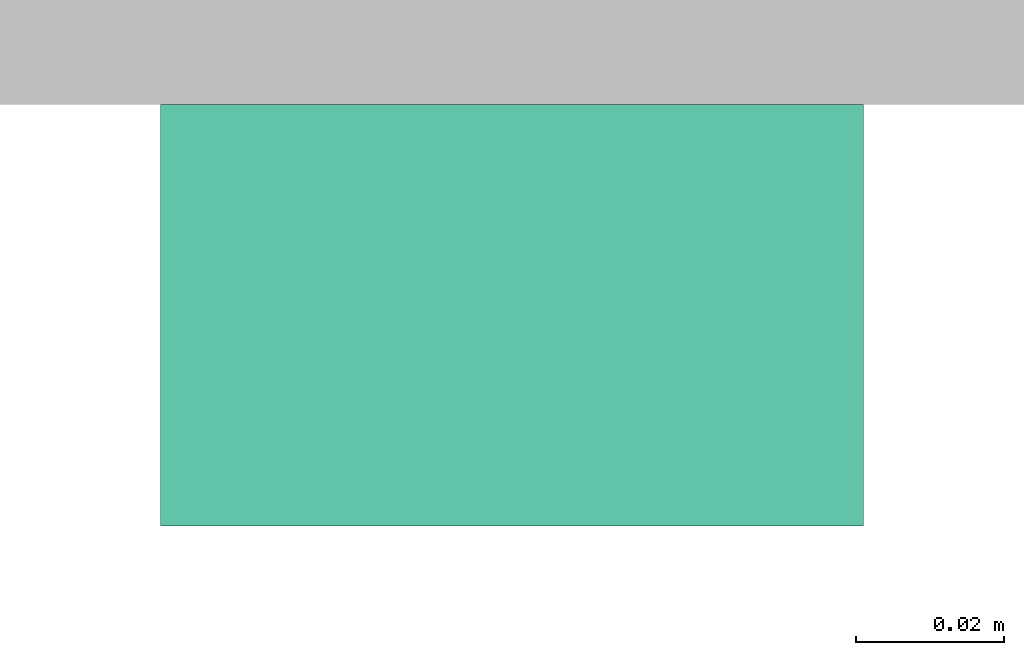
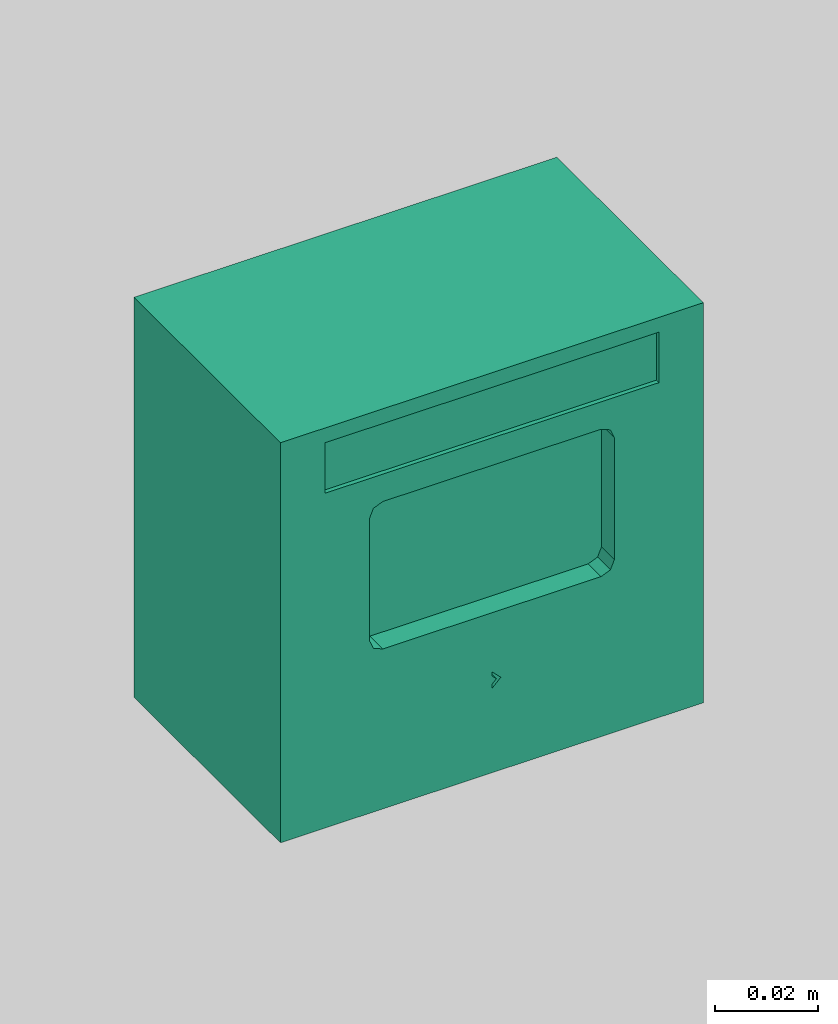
# One storey, part 29 of 197: 1 distribution control element.
"""IFC2X3 building model written with IfcOpenShell, lengths in metres."""

from ifc_helpers import new_model, entity, si_unit, converted_unit, direction, frame, origin, place, context, subcontext, project, spatial, faceted_brep, source, transform, mapped, material, material_list, type_object, type_shapes, element, save


model = new_model("IFC2X3")

# Units and contexts
model_context = context("Model", 3, precision=1e-05, world=origin(), true_north=direction((6.123031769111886e-17, 1.0)))
body_context = subcontext(model_context, "Body", "Model", "MODEL_VIEW")
ifc_project = project(units=[si_unit("LENGTHUNIT", "METRE"), converted_unit("PLANEANGLEUNIT", "DEGREE", entity("IfcPlaneAngleMeasure", 0.017453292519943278), si_unit("PLANEANGLEUNIT", "RADIAN"), dimensions=[0, 0, 0, 0, 0, 0, 0]), si_unit("AREAUNIT", "SQUARE_METRE")], contexts=[model_context])

# Site, building, storey
site_placement = place(None, origin())
site = spatial("IfcSite", under=ifc_project, at=site_placement, Name="Default", CompositionType="ELEMENT")
building_placement = place(site_placement, origin())
building = spatial("IfcBuilding", under=site, at=building_placement, CompositionType="ELEMENT")
storey_placement = place(building_placement, origin())
storey = spatial("IfcBuildingStorey", under=building, at=storey_placement, Name="Niveau 0", CompositionType="ELEMENT", Elevation=0.0)

# Distribution control element
ifc_material_1 = material(Name="BETCE-INCENDIE-VITRE BLANC")
ifc_material_2 = material(Name="BETCE-INCENDIE-DM ROUGE")
ifc_material_list = material_list([ifc_material_1, ifc_material_2])
alarm_type = type_object("IfcAlarmType", Name="Déclencheur manuel saillie:DM ROUGE", PredefinedType="NOTDEFINED", material=ifc_material_list)
shared_shape = source(origin(), body_context, "Body", "Brep", [
    faceted_brep([(0.024500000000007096, -0.052000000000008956, 0.03800000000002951), (0.026621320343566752, -0.05200000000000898, 0.038878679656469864), (0.027500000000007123, -0.052000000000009, 0.0410000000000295), (0.027500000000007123, -0.0520000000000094, 0.07000000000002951), (0.026621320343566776, -0.05200000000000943, 0.07212132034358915), (0.024500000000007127, -0.05200000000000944, 0.07300000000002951), (-0.02449999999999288, -0.05200000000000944, 0.07300000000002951), (-0.026621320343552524, -0.05200000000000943, 0.07212132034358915), (-0.027499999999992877, -0.0520000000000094, 0.07000000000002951), (-0.027499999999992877, -0.052000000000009, 0.04100000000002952), (-0.026621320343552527, -0.05200000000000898, 0.03887867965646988), (-0.024499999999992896, -0.052000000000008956, 0.03800000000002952), (0.024500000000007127, -0.05000000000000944, 0.07300000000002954), (0.026621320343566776, -0.050000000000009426, 0.07212132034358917), (0.027500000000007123, -0.05000000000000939, 0.07000000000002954), (0.027500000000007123, -0.050000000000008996, 0.04100000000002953), (0.026621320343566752, -0.050000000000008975, 0.038878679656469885), (0.024500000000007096, -0.050000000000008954, 0.03800000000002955), (-0.024499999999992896, -0.050000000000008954, 0.03800000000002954), (-0.026621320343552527, -0.050000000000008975, 0.038878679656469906), (-0.027499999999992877, -0.050000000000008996, 0.04100000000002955), (-0.027499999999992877, -0.05000000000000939, 0.07000000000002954), (-0.026621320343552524, -0.050000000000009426, 0.07212132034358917), (-0.02449999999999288, -0.05000000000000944, 0.07300000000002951)], [[[0, 1, 2, 3, 4, 5, 6, 7, 8, 9, 10, 11]], [[12, 13, 14, 15, 16, 17, 18, 19, 20, 21, 22, 23]], [[9, 20, 19, 10]], [[19, 18, 11, 10]], [[0, 11, 18, 17]], [[0, 17, 16, 1]], [[16, 15, 2, 1]], [[3, 2, 15, 14]], [[3, 14, 13, 4]], [[13, 12, 5, 4]], [[6, 5, 12, 23]], [[6, 23, 22, 7]], [[22, 21, 8, 7]], [[9, 8, 21, 20]]]),
    faceted_brep([(0.047500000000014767, -0.057000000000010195, 0.09500000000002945), (0.03750000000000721, -0.05700000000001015, 0.09150320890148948), (0.03750000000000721, -0.05700000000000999, 0.07950320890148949), (-0.037499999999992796, -0.05700000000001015, 0.09150320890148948), (0.047500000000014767, -0.057000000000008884, 0.0), (-0.04749999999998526, -0.057000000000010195, 0.09500000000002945), (-0.037499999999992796, -0.05700000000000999, 0.07950320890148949), (-0.047499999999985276, -0.057000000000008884, 0.0), (-0.027499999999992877, -0.05700000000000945, 0.04100000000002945), (-0.026621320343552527, -0.05700000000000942, 0.03887867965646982), (-0.0244999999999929, -0.05700000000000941, 0.03800000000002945), (0.0, -0.057000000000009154, 0.02000000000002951), (0.027500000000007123, -0.05700000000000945, 0.041000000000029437), (0.02662132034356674, -0.05700000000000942, 0.03887867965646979), (0.02450000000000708, -0.05700000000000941, 0.03800000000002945), (0.002000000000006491, -0.05700000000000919, 0.022000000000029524), (0.0, -0.05700000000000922, 0.02400000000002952), (0.0, -0.057000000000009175, 0.021000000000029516), (0.0, -0.057000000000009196, 0.023000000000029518), (0.0010000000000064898, -0.05700000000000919, 0.022000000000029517), (-0.027499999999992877, -0.05700000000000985, 0.07000000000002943), (-0.026621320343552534, -0.05700000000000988, 0.07212132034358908), (-0.02449999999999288, -0.05700000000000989, 0.07300000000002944), (0.024500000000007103, -0.05700000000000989, 0.07300000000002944), (0.02662132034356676, -0.05700000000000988, 0.0721213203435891), (0.027500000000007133, -0.05700000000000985, 0.07000000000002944), (-0.047499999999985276, 0.0, 0.0), (-0.04749999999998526, 0.0, 0.09500000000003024), (0.047500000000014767, 0.0, 0.09500000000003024), (0.04750000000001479, 0.0, 0.0), (-0.024499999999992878, -0.05000000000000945, 0.07300000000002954), (-0.026621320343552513, -0.05000000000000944, 0.07212132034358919), (-0.027499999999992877, -0.050000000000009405, 0.07000000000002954), (-0.027499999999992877, -0.050000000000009, 0.04100000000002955), (-0.026621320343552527, -0.050000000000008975, 0.03887867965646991), (-0.0244999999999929, -0.05000000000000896, 0.038000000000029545), (0.024500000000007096, -0.05000000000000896, 0.03800000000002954), (0.026621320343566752, -0.050000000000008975, 0.038878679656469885), (0.027500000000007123, -0.050000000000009, 0.04100000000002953), (0.027500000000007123, -0.050000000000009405, 0.07000000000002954), (0.026621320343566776, -0.05000000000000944, 0.07212132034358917), (0.024500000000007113, -0.05000000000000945, 0.07300000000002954), (0.0010000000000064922, -0.05000000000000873, 0.02200000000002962), (0.0, -0.050000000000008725, 0.021000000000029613), (0.0, -0.05000000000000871, 0.02000000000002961), (0.0020000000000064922, -0.05000000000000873, 0.022000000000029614), (0.0, -0.05000000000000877, 0.024000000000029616), (0.0, -0.05000000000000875, 0.023000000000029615), (0.03750000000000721, -0.05600000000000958, 0.0795032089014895), (0.03750000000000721, -0.05600000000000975, 0.0915032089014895), (-0.037499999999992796, -0.05600000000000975, 0.0915032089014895), (-0.037499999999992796, -0.05600000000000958, 0.0795032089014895)], [[[0, 1, 2]], [[1, 0, 3]], [[0, 2, 4]], [[5, 3, 0]], [[6, 3, 5]], [[6, 5, 7]], [[8, 6, 7]], [[9, 8, 7]], [[7, 10, 9]], [[10, 7, 11]], [[11, 7, 4]], [[12, 4, 2]], [[4, 12, 13]], [[4, 13, 14]], [[4, 15, 11]], [[14, 15, 4]], [[14, 16, 15]], [[11, 17, 10]], [[17, 18, 10]], [[17, 19, 18]], [[18, 16, 10]], [[14, 10, 16]], [[20, 6, 8]], [[20, 21, 6]], [[21, 22, 6]], [[22, 23, 2]], [[6, 22, 2]], [[23, 24, 2]], [[24, 25, 2]], [[2, 25, 12]], [[26, 27, 28, 29]], [[5, 0, 28, 27]], [[7, 5, 27, 26]], [[4, 7, 26, 29]], [[0, 4, 29, 28]], [[30, 31, 32, 33, 34, 35, 36, 37, 38, 39, 40, 41]], [[42, 43, 44, 45, 46, 47]], [[41, 23, 22, 30]], [[21, 31, 30, 22]], [[20, 32, 31, 21]], [[32, 20, 8, 33]], [[9, 34, 33, 8]], [[10, 35, 34, 9]], [[35, 10, 14, 36]], [[13, 37, 36, 14]], [[12, 38, 37, 13]], [[38, 12, 25, 39]], [[24, 40, 39, 25]], [[23, 41, 40, 24]], [[43, 17, 11, 44]], [[46, 16, 18, 47]], [[15, 45, 44, 11]], [[16, 46, 45, 15]], [[18, 19, 42, 47]], [[42, 19, 17, 43]], [[48, 49, 50, 51]], [[49, 1, 3, 50]], [[50, 3, 6, 51]], [[51, 6, 2, 48]], [[48, 2, 1, 49]]]),
])
type_shapes(alarm_type, [shared_shape])
distribution_control_element_placement = place(storey_placement, frame((-534.0195951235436, -24.636644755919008, 1.0)))
element("IfcDistributionControlElement", 1, at=distribution_control_element_placement, inside=storey, type_object=alarm_type, material=ifc_material_list, Name="Déclencheur manuel saillie:DM ROUGE", ObjectType="Déclencheur manuel saillie:DM ROUGE", context=body_context, shape_type="MappedRepresentation", body=[
    mapped(shared_shape, transform((0.0, 0.0, 0.0), scale=1.0)),
])

save(model, "model.ifc")
